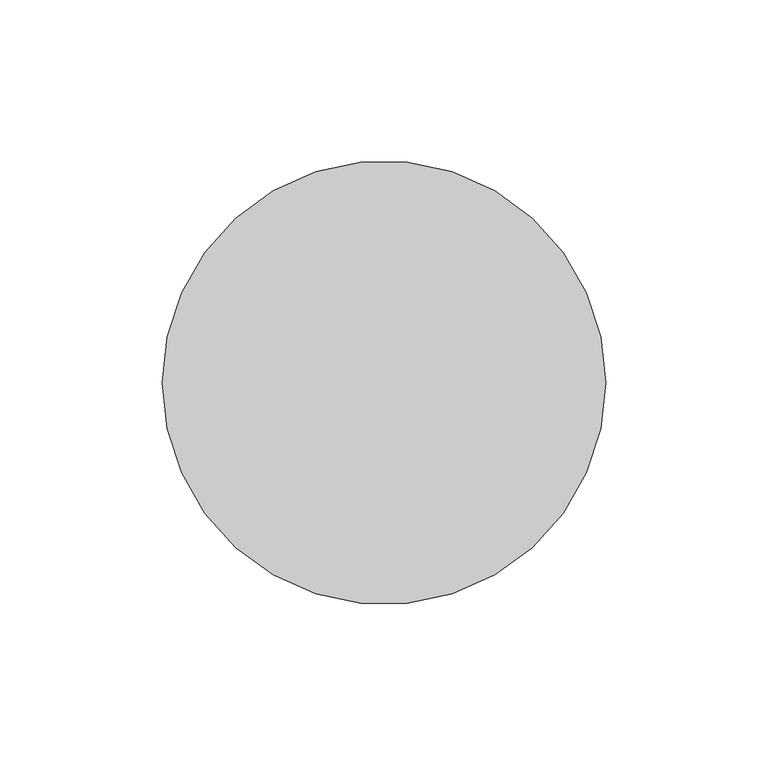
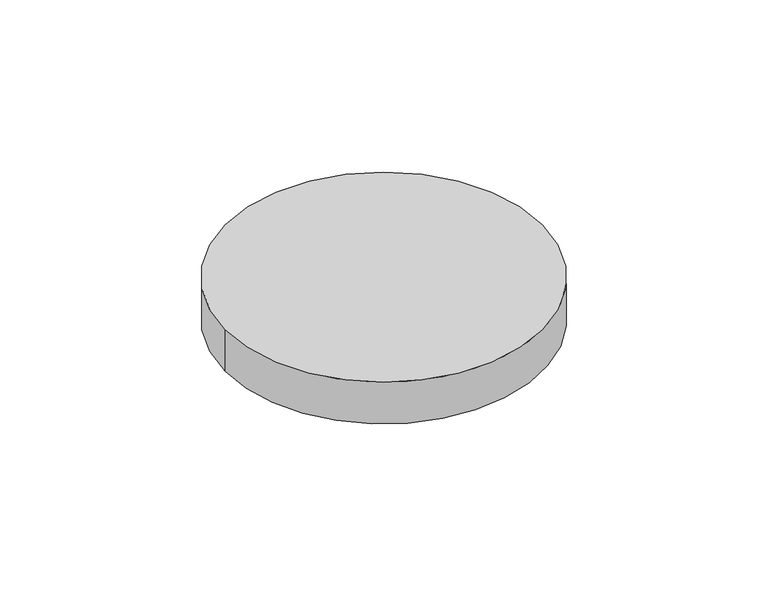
"""IFC4 building model written with IfcOpenShell, lengths in millimetres: light fixture geometry, LCMPD5R_SURFACE MOUNT BASIC : LCMPD5RW-T30."""

from ifc_helpers import new_model, si_unit, point, frame, frame_2d, origin, place, context, project, spatial, polyline, circle_curve, trimmed, segment, composite_curve, outline, extrude, source, transform, mapped, element, save
from ifc_brep_helpers import plane_surface, cylinder_surface, revolved_surface, advanced_brep


def light_fixture_173faddb(model_context):
    return source(origin(), model_context, "Body", "SolidModel", [
        advanced_brep(
        [(-68.2625, -33.7992882, 0.0), (68.2625, -33.7992882, 0.0), (-68.2625, -33.7992882, -19.05), (68.2625, -33.7992882, -19.05), (-63.5, -33.7992882, -19.05), (63.5, -33.7992882, -19.05), (63.5, -33.7992882, -15.6184516), (-63.5, -33.7992882, -15.6184516)],
        [
            (0, 1, circle_curve(frame((0.0, -33.7992882, 0.0), z_axis=(0.0, 0.0, 1.0), x_axis=(1.0, 0.0, 0.0)), 68.2625)),
            (1, 0, circle_curve(frame((0.0, -33.7992882, 0.0), z_axis=(0.0, 0.0, 1.0), x_axis=(1.0, 0.0, 0.0)), 68.2625)),
            (2, 3, circle_curve(frame((0.0, -33.7992882, -19.05), z_axis=(0.0, 0.0, -1.0), x_axis=(1.0, 0.0, 0.0)), 68.2625)),
            (3, 2, circle_curve(frame((0.0, -33.7992882, -19.05), z_axis=(0.0, 0.0, -1.0), x_axis=(1.0, 0.0, 0.0)), 68.2625)),
            (4, 5, circle_curve(frame((0.0, -33.7992882, -19.05), z_axis=(0.0, 0.0, 1.0), x_axis=(1.0, 0.0, 0.0)), 63.5)),
            (5, 4, circle_curve(frame((0.0, -33.7992882, -19.05), z_axis=(0.0, 0.0, 1.0), x_axis=(1.0, 0.0, 0.0)), 63.5)),
            (0, 2),
            (3, 1),
            (5, 6),
            (6, 7, circle_curve(frame((0.0, -33.7992882, -15.6184516), z_axis=(0.0, 0.0, 1.0), x_axis=(1.0, 0.0, 0.0)), 63.5)),
            (7, 4),
            (7, 6, circle_curve(frame((0.0, -33.7992882, -15.6184516), z_axis=(0.0, 0.0, 1.0), x_axis=(1.0, 0.0, 0.0)), 63.5)),
        ],
        [
            plane_surface(frame((68.2625, -33.7992882, 0.0), z_axis=(0.0, 0.0, 1.0), x_axis=(0.0, 1.0, 0.0))),
            plane_surface(frame((68.2625, -33.7992882, -19.05), z_axis=(0.0, 0.0, -1.0), x_axis=(0.0, -1.0, 0.0))),
            cylinder_surface(frame((0.0, -33.7992882, -19.05), z_axis=(0.0, 0.0, 1.0), x_axis=(1.0, 0.0, 0.0)), 68.2625),
            revolved_surface(polyline([(63.5, -33.7992882, -19.05), (63.5, -33.7992882, -15.6184516)]), (0.0, -33.7992882, 0.0), (0.0, 0.0, -1.0)),
            plane_surface(frame((63.5, -33.7992882, -15.6184516), z_axis=(0.0, 0.0, -1.0), x_axis=(0.0, -1.0, 0.0))),
        ],
        [
            (0, [[1, 2]]),
            (1, [[3, 4], [5, 6]]),
            (2, [[-1, 7, -4, 8]]),
            (2, [[-2, -8, -3, -7]]),
            (3, [[-6, 9, 10, 11]]),
            (3, [[-5, -11, 12, -9]]),
            (4, [[-10, -12]]),
        ],
    ),
        extrude(outline(composite_curve([segment(trimmed(circle_curve(frame_2d((0.0, -33.7992882)), 63.5), [point((-63.5, -33.7992882))], [point((63.5, -33.7992882))], False, "CARTESIAN"), True, "CONTINUOUS"), segment(trimmed(circle_curve(frame_2d((0.0, -33.7992882)), 63.5), [point((63.5, -33.7992882))], [point((-63.5, -33.7992882))], False, "CARTESIAN"), True, "CONTINUOUS")], self_intersect=False)), frame((0.0, 0.0, -17.2714963), z_axis=(0.0, 0.0, 1.0), x_axis=(1.0, 0.0, 0.0)), (0.0, 0.0, 1.0), 1.6530446),
    ])


if __name__ == "__main__":
    model = new_model("IFC4")
    model_context = context("Model", 3, world=origin())
    ifc_project = project(units=[si_unit("LENGTHUNIT", "METRE", prefix="MILLI")], contexts=[model_context])
    site = spatial("IfcSite", under=ifc_project)
    building = spatial("IfcBuilding", under=site)
    placement = place(None, origin())
    light_fixture_shape = light_fixture_173faddb(model_context)
    element("IfcLightFixture", 1, ObjectType="LCMPD5R_SURFACE MOUNT BASIC : LCMPD5RW-T30", at=placement, inside=building, context=model_context, shape_type="MappedRepresentation", body=[
        mapped(light_fixture_shape, transform((0.0, 0.0, 0.0), x_axis=(1.0, 0.0, 0.0), y_axis=(0.0, 1.0, 0.0), z_axis=(0.0, 0.0, 1.0))),
    ])
    save(model, "model.ifc")
